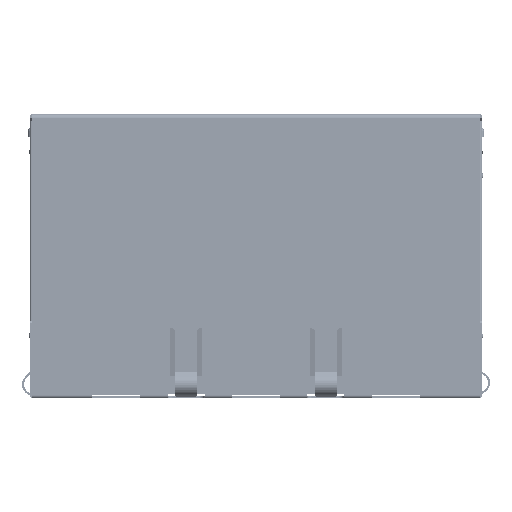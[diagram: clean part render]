
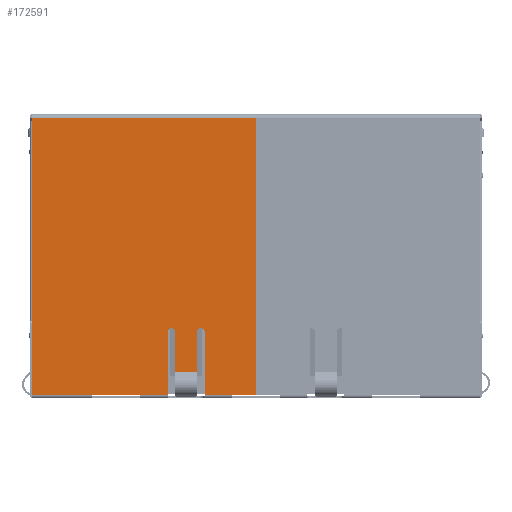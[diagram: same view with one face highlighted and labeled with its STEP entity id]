
A CAD part, front view. The second image highlights one B-rep face of the part: STEP entity #172591.
In plain terms, the highlighted planar face has unit normal (0, -1, 0).
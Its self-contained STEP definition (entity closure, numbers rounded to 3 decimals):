
#164070=DIRECTION('',(-1.,0.,0.));
#164071=VECTOR('',#164070,22.405);
#164072=CARTESIAN_POINT('',(20.955,-12.705,27.55));
#164073=LINE('',#164072,#164071);
#164088=DIRECTION('',(0.,0.,-1.));
#164089=VECTOR('',#164088,27.65);
#164090=CARTESIAN_POINT('',(20.955,-12.705,27.55));
#164091=LINE('',#164090,#164089);
#164092=CARTESIAN_POINT('',(15.44,-12.705,6.17));
#164093=DIRECTION('',(0.,-1.,0.));
#164094=DIRECTION('',(1.,0.,0.));
#164095=AXIS2_PLACEMENT_3D('',#164092,#164093,#164094);
#164097=CARTESIAN_POINT('',(12.5,-12.705,6.17));
#164098=DIRECTION('',(0.,-1.,0.));
#164099=DIRECTION('',(1.,0.,0.));
#164100=AXIS2_PLACEMENT_3D('',#164097,#164098,#164099);
#164102=DIRECTION('',(0.,0.,-1.));
#164103=VECTOR('',#164102,0.05);
#164104=CARTESIAN_POINT('',(4.585,-12.705,-0.1));
#164105=LINE('',#164104,#164103);
#164106=DIRECTION('',(0.,0.,1.));
#164107=VECTOR('',#164106,7.417);
#164108=CARTESIAN_POINT('',(-1.45,-12.705,-0.15));
#164109=LINE('',#164108,#164107);
#164110=DIRECTION('',(0.,0.,1.));
#164111=VECTOR('',#164110,0.3);
#164112=CARTESIAN_POINT('',(-1.45,-12.705,27.25));
#164113=LINE('',#164112,#164111);
#164122=DIRECTION('',(1.,0.,0.));
#164123=VECTOR('',#164122,2.4);
#164124=CARTESIAN_POINT('',(18.555,-12.705,-0.1));
#164125=LINE('',#164124,#164123);
#164148=DIRECTION('',(0.,0.,-1.));
#164149=VECTOR('',#164148,0.05);
#164150=CARTESIAN_POINT('',(18.555,-12.705,-0.1));
#164151=LINE('',#164150,#164149);
#164177=DIRECTION('',(0.,0.,-1.));
#164178=VECTOR('',#164177,6.32);
#164179=CARTESIAN_POINT('',(15.82,-12.705,6.17));
#164180=LINE('',#164179,#164178);
#164198=DIRECTION('',(0.,0.,-1.));
#164199=VECTOR('',#164198,3.989);
#164200=CARTESIAN_POINT('',(15.06,-12.705,6.17));
#164201=LINE('',#164200,#164199);
#164228=DIRECTION('',(-1.,0.,0.));
#164229=VECTOR('',#164228,2.18);
#164230=CARTESIAN_POINT('',(15.06,-12.705,2.181));
#164231=LINE('',#164230,#164229);
#164386=DIRECTION('',(0.,0.,-1.));
#164387=VECTOR('',#164386,3.989);
#164388=CARTESIAN_POINT('',(12.88,-12.705,6.17));
#164389=LINE('',#164388,#164387);
#164424=DIRECTION('',(0.,0.,-1.));
#164425=VECTOR('',#164424,6.32);
#164426=CARTESIAN_POINT('',(12.12,-12.705,6.17));
#164427=LINE('',#164426,#164425);
#164449=DIRECTION('',(0.,0.,-1.));
#164450=VECTOR('',#164449,0.05);
#164451=CARTESIAN_POINT('',(9.385,-12.705,-0.1));
#164452=LINE('',#164451,#164450);
#164470=DIRECTION('',(1.,0.,0.));
#164471=VECTOR('',#164470,4.8);
#164472=CARTESIAN_POINT('',(4.585,-12.705,-0.1));
#164473=LINE('',#164472,#164471);
#164478=DIRECTION('',(1.,0.,0.));
#164479=VECTOR('',#164478,2.735);
#164480=CARTESIAN_POINT('',(9.385,-12.705,-0.15));
#164481=LINE('',#164480,#164479);
#165022=DIRECTION('',(1.,0.,0.));
#165023=VECTOR('',#165022,2.735);
#165024=CARTESIAN_POINT('',(15.82,-12.705,-0.15));
#165025=LINE('',#165024,#165023);
#165098=DIRECTION('',(1.,0.,0.));
#165099=VECTOR('',#165098,6.035);
#165100=CARTESIAN_POINT('',(-1.45,-12.705,-0.15));
#165101=LINE('',#165100,#165099);
#165110=DIRECTION('',(0.,0.,-1.));
#165111=VECTOR('',#165110,19.983);
#165112=CARTESIAN_POINT('',(-1.45,-12.705,27.25));
#165113=LINE('',#165112,#165111);
#168493=CARTESIAN_POINT('',(-1.45,-12.705,-0.15));
#168494=VERTEX_POINT('',#168493);
#168495=CARTESIAN_POINT('',(-1.45,-12.705,7.267));
#168496=VERTEX_POINT('',#168495);
#168505=CARTESIAN_POINT('',(4.585,-12.705,-0.15));
#168506=VERTEX_POINT('',#168505);
#168507=CARTESIAN_POINT('',(4.585,-12.705,-0.1));
#168508=VERTEX_POINT('',#168507);
#168546=CARTESIAN_POINT('',(20.955,-12.705,27.55));
#168548=VERTEX_POINT('',#168546);
#168553=CARTESIAN_POINT('',(20.955,-12.705,-0.1));
#168554=VERTEX_POINT('',#168553);
#168556=CARTESIAN_POINT('',(-1.45,-12.705,27.55));
#168558=VERTEX_POINT('',#168556);
#168559=CARTESIAN_POINT('',(-1.45,-12.705,27.25));
#168560=VERTEX_POINT('',#168559);
#168561=CARTESIAN_POINT('',(9.385,-12.705,-0.1));
#168562=VERTEX_POINT('',#168561);
#168563=CARTESIAN_POINT('',(9.385,-12.705,-0.15));
#168564=VERTEX_POINT('',#168563);
#168565=CARTESIAN_POINT('',(12.12,-12.705,-0.15));
#168566=VERTEX_POINT('',#168565);
#168567=CARTESIAN_POINT('',(12.12,-12.705,6.17));
#168568=VERTEX_POINT('',#168567);
#168569=CARTESIAN_POINT('',(12.88,-12.705,6.17));
#168570=VERTEX_POINT('',#168569);
#168571=CARTESIAN_POINT('',(12.88,-12.705,2.181));
#168572=VERTEX_POINT('',#168571);
#168573=CARTESIAN_POINT('',(15.06,-12.705,2.181));
#168574=VERTEX_POINT('',#168573);
#168575=CARTESIAN_POINT('',(15.06,-12.705,6.17));
#168576=VERTEX_POINT('',#168575);
#168577=CARTESIAN_POINT('',(15.82,-12.705,6.17));
#168578=VERTEX_POINT('',#168577);
#168579=CARTESIAN_POINT('',(15.82,-12.705,-0.15));
#168580=VERTEX_POINT('',#168579);
#168581=CARTESIAN_POINT('',(18.555,-12.705,-0.15));
#168582=VERTEX_POINT('',#168581);
#168583=CARTESIAN_POINT('',(18.555,-12.705,-0.1));
#168584=VERTEX_POINT('',#168583);
#172549=CARTESIAN_POINT('',(9.753,-12.705,13.7));
#172550=DIRECTION('',(0.,1.,0.));
#172551=DIRECTION('',(0.,0.,1.));
#172552=AXIS2_PLACEMENT_3D('',#172549,#172550,#172551);
#172553=PLANE('',#172552);
#172554=ORIENTED_EDGE('',*,*,#172527,.F.);
#172555=ORIENTED_EDGE('',*,*,#172512,.T.);
#172557=ORIENTED_EDGE('',*,*,#172556,.F.);
#172559=ORIENTED_EDGE('',*,*,#172558,.T.);
#172561=ORIENTED_EDGE('',*,*,#172560,.F.);
#172563=ORIENTED_EDGE('',*,*,#172562,.F.);
#172565=ORIENTED_EDGE('',*,*,#172564,.T.);
#172567=ORIENTED_EDGE('',*,*,#172566,.T.);
#172569=ORIENTED_EDGE('',*,*,#172568,.T.);
#172571=ORIENTED_EDGE('',*,*,#172570,.F.);
#172573=ORIENTED_EDGE('',*,*,#172572,.T.);
#172575=ORIENTED_EDGE('',*,*,#172574,.T.);
#172577=ORIENTED_EDGE('',*,*,#172576,.F.);
#172579=ORIENTED_EDGE('',*,*,#172578,.F.);
#172581=ORIENTED_EDGE('',*,*,#172580,.F.);
#172582=ORIENTED_EDGE('',*,*,#172428,.T.);
#172584=ORIENTED_EDGE('',*,*,#172583,.F.);
#172585=ORIENTED_EDGE('',*,*,#172393,.T.);
#172587=ORIENTED_EDGE('',*,*,#172586,.F.);
#172588=ORIENTED_EDGE('',*,*,#172538,.T.);
#172589=EDGE_LOOP('',(#172554,#172555,#172557,#172559,#172561,#172563,#172565,
#172567,#172569,#172571,#172573,#172575,#172577,#172579,#172581,#172582,#172584,
#172585,#172587,#172588));
#172590=FACE_OUTER_BOUND('',#172589,.F.);
#172591=ADVANCED_FACE('',(#172590),#172553,.F.);
#164096=CIRCLE('',#164095,0.38);
#164101=CIRCLE('',#164100,0.38);
#172393=EDGE_CURVE('',#168494,#168496,#164109,.T.);
#172428=EDGE_CURVE('',#168508,#168506,#164105,.T.);
#172512=EDGE_CURVE('',#168548,#168554,#164091,.T.);
#172527=EDGE_CURVE('',#168548,#168558,#164073,.T.);
#172538=EDGE_CURVE('',#168560,#168558,#164113,.T.);
#172556=EDGE_CURVE('',#168584,#168554,#164125,.T.);
#172558=EDGE_CURVE('',#168584,#168582,#164151,.T.);
#172560=EDGE_CURVE('',#168580,#168582,#165025,.T.);
#172562=EDGE_CURVE('',#168578,#168580,#164180,.T.);
#172564=EDGE_CURVE('',#168578,#168576,#164096,.T.);
#172566=EDGE_CURVE('',#168576,#168574,#164201,.T.);
#172568=EDGE_CURVE('',#168574,#168572,#164231,.T.);
#172570=EDGE_CURVE('',#168570,#168572,#164389,.T.);
#172572=EDGE_CURVE('',#168570,#168568,#164101,.T.);
#172574=EDGE_CURVE('',#168568,#168566,#164427,.T.);
#172576=EDGE_CURVE('',#168564,#168566,#164481,.T.);
#172578=EDGE_CURVE('',#168562,#168564,#164452,.T.);
#172580=EDGE_CURVE('',#168508,#168562,#164473,.T.);
#172583=EDGE_CURVE('',#168494,#168506,#165101,.T.);
#172586=EDGE_CURVE('',#168560,#168496,#165113,.T.);
